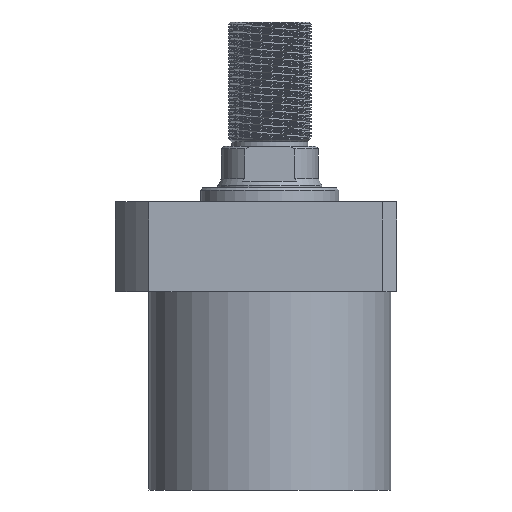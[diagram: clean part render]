
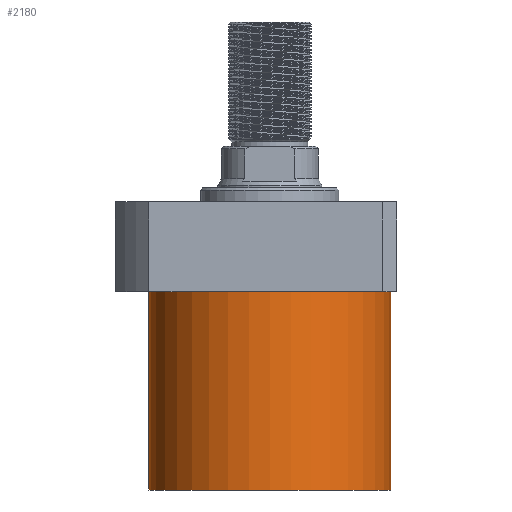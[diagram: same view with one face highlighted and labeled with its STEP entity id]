
A CAD part, front view. The second image highlights one B-rep face of the part: STEP entity #2180.
In plain terms, the highlighted cylindrical face has radius 52.5 mm (diameter 105 mm), a partial arc.
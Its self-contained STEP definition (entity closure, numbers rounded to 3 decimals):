
#25 = DIRECTION ( 'NONE',  ( 0., 0., 1. ) ) ;
#230 = LINE ( 'NONE', #620, #1920 ) ;
#389 = ORIENTED_EDGE ( 'NONE', *, *, #5548, .F. ) ;
#508 = DIRECTION ( 'NONE',  ( 1., 0., 0. ) ) ;
#525 = VERTEX_POINT ( 'NONE', #2718 ) ;
#620 = CARTESIAN_POINT ( 'NONE',  ( -52.5, 0., -105.5 ) ) ;
#808 = EDGE_LOOP ( 'NONE', ( #4996, #389, #7927, #7062 ) ) ;
#1354 = EDGE_CURVE ( 'NONE', #7265, #4787, #4228, .T. ) ;
#1364 = CARTESIAN_POINT ( 'NONE',  ( 0., 0., -105.5 ) ) ;
#1539 = AXIS2_PLACEMENT_3D ( 'NONE', #1364, #5712, #2014 ) ;
#1907 = FACE_OUTER_BOUND ( 'NONE', #808, .T. ) ;
#1920 = VECTOR ( 'NONE', #25, 1000. ) ;
#1953 = EDGE_CURVE ( 'NONE', #6877, #7265, #6835, .T. ) ;
#2014 = DIRECTION ( 'NONE',  ( -1., 0., 0. ) ) ;
#2180 = ADVANCED_FACE ( 'NONE', ( #1907 ), #2583, .T. ) ;
#2296 = CIRCLE ( 'NONE', #1539, 52.5 ) ;
#2583 = CYLINDRICAL_SURFACE ( 'NONE', #4744, 52.5 ) ;
#2718 = CARTESIAN_POINT ( 'NONE',  ( -52.5, 0., -105.5 ) ) ;
#3265 = CARTESIAN_POINT ( 'NONE',  ( -52.5, 0., -19.5 ) ) ;
#3375 = CARTESIAN_POINT ( 'NONE',  ( 52.5, 0., -105.5 ) ) ;
#3536 = VECTOR ( 'NONE', #5863, 1000. ) ;
#3619 = CARTESIAN_POINT ( 'NONE',  ( 0., 0., -105.5 ) ) ;
#4213 = CARTESIAN_POINT ( 'NONE',  ( 0., 0., -19.5 ) ) ;
#4228 = CIRCLE ( 'NONE', #5568, 52.5 ) ;
#4244 = DIRECTION ( 'NONE',  ( 0., 0., -1. ) ) ;
#4253 = DIRECTION ( 'NONE',  ( 0., 0., 1. ) ) ;
#4268 = DIRECTION ( 'NONE',  ( 1., 0., 0. ) ) ;
#4744 = AXIS2_PLACEMENT_3D ( 'NONE', #3619, #4253, #508 ) ;
#4787 = VERTEX_POINT ( 'NONE', #3265 ) ;
#4996 = ORIENTED_EDGE ( 'NONE', *, *, #6946, .F. ) ;
#5316 = CARTESIAN_POINT ( 'NONE',  ( 52.5, 0., -19.5 ) ) ;
#5548 = EDGE_CURVE ( 'NONE', #6877, #525, #2296, .T. ) ;
#5568 = AXIS2_PLACEMENT_3D ( 'NONE', #4213, #4244, #4268 ) ;
#5712 = DIRECTION ( 'NONE',  ( 0., 0., -1. ) ) ;
#5863 = DIRECTION ( 'NONE',  ( 0., 0., 1. ) ) ;
#6715 = CARTESIAN_POINT ( 'NONE',  ( 52.5, 0., -105.5 ) ) ;
#6835 = LINE ( 'NONE', #3375, #3536 ) ;
#6877 = VERTEX_POINT ( 'NONE', #6715 ) ;
#6946 = EDGE_CURVE ( 'NONE', #525, #4787, #230, .T. ) ;
#7062 = ORIENTED_EDGE ( 'NONE', *, *, #1354, .T. ) ;
#7265 = VERTEX_POINT ( 'NONE', #5316 ) ;
#7927 = ORIENTED_EDGE ( 'NONE', *, *, #1953, .T. ) ;
